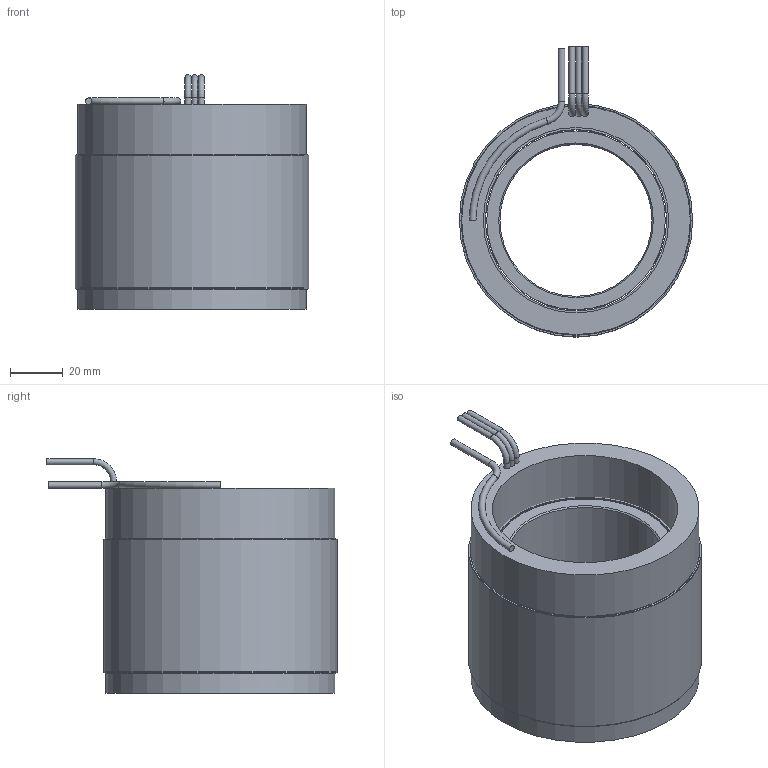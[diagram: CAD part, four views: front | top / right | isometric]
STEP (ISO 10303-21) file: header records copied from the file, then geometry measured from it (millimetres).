
FILE_DESCRIPTION (( 'STEP AP214' ), '1' );
FILE_NAME ('6100394-05.STEP', '2020-12-15T03:36:06', ( '' ), ( '' ), 'SwSTEP 2.0', 'SolidWorks 2016', '' );
FILE_SCHEMA (( 'AUTOMOTIVE_DESIGN' ));
Length unit declared in the file: inch
Products named in the file (10): 4600567-00; 4400103-00; 4450191-XX_4450191-05; 4150180-XX_4150180-05; 4250382-XX_4250382-05; 6100394-05; COMP4500560-XX(COIL)_COMP4500560-05(COIL); 4500560-XX_4500560-05
Assembly tree (10 placements, depth 4):
  6100394-05
    4500560-XX_4500560-05
      4450191-XX_4450191-05
        4450191-XX_4450191-05
        4400103-00
        4400103-00
        4600567-00  x2
      COMP4500560-XX(COIL)_COMP4500560-05(COIL)
    4250382-XX_4250382-05
      4150180-XX_4150180-05
Bounding box: 88.9 x 110.49 x 89.28 mm (x, y, z)
Volume: 337367.1 mm3; surface area: 115435.1 mm2
Topology: 8 solids, 8 shells, 47 faces, 74 edges, 46 vertices
Faces by surface type: cylinder 21, plane 19, torus 5, cone 2
Full cylindrical faces by diameter (mm): 2.286 x6, 2.54 x1, 57.912 x1, 68.072 x1, 69.088 x5, 70.612 x1, 87.122 x1, 87.63 x2, 88.9 x3
Entity records: 1305 total; most frequent: DIRECTION 202, CARTESIAN_POINT 143, AXIS2_PLACEMENT_3D 101, ORIENTED_EDGE 84, EDGE_LOOP 84, FACE_OUTER_BOUND 67, ADVANCED_FACE 43, EDGE_CURVE 42
